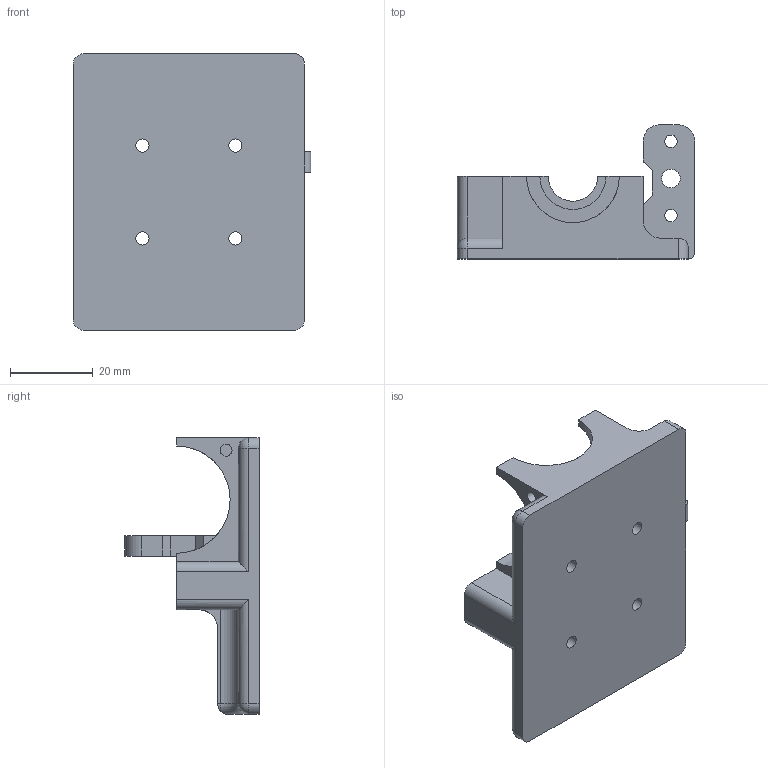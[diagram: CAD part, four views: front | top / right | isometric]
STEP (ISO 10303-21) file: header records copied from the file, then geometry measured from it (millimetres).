
FILE_DESCRIPTION(/* description */ (''),/* implementation_level */ '2;1');
FILE_NAME(/* name */ 'C:/Users/jack-_000/Documents/3dPrinter/Models/Venture Aeon/Bowden X Carriage/Main BlTouch.step',/* time_stamp */ '2017-03-18T19:39:10+00:00',/* author */ (''),/* organization */ (''),/* preprocessor_version */ 'ST-DEVELOPER v16.5',/* originating_system */ 'Autodesk Translation Framework v5.2.0.2920',/* authorisation */ '');
FILE_SCHEMA (('AUTOMOTIVE_DESIGN { 1 0 10303 214 3 1 1 }'));
Length unit declared in the file: millimetre
Products named in the file (1): X carriage mount BL touch v9
Bounding box: 57.5 x 32.5 x 67 mm (x, y, z)
Volume: 35349.4 mm3; surface area: 12880.5 mm2
Topology: 1 solids, 1 shells, 106 faces, 275 edges, 176 vertices
Faces by surface type: plane 54, cylinder 46, torus 3, sphere 3
Full cylindrical faces by diameter (mm): 2.9 x1, 3 x2, 3.2 x8, 4.5 x1, 6 x4
Entity records: 3422 total; most frequent: CARTESIAN_POINT 792, DIRECTION 552, ORIENTED_EDGE 510, EDGE_CURVE 255, AXIS2_PLACEMENT_3D 201, VERTEX_POINT 172, LINE 150, VECTOR 150
